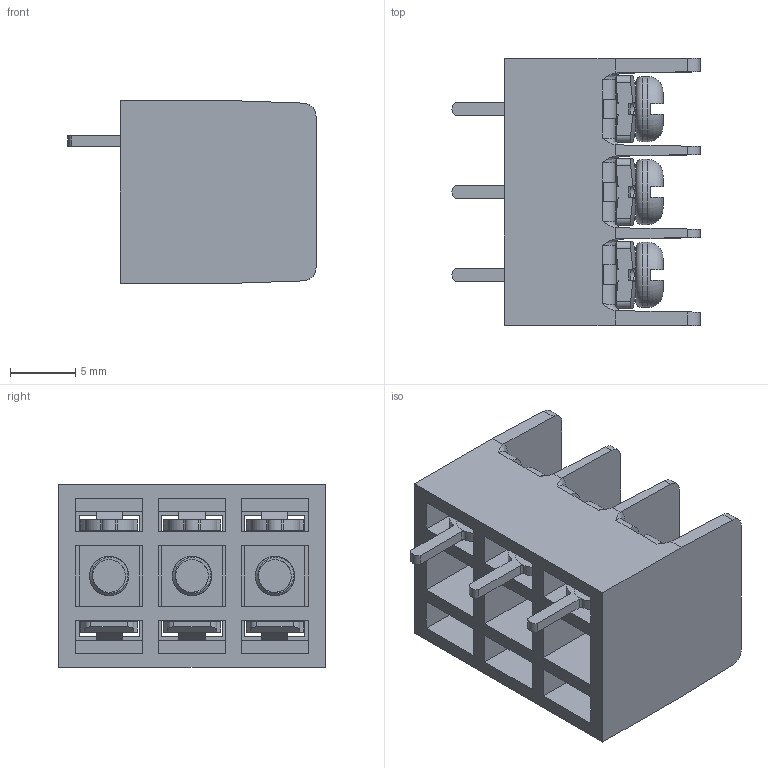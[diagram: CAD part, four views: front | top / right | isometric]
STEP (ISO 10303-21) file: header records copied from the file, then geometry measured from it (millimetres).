
FILE_DESCRIPTION((''),'2;1');
FILE_NAME('3PIN','2021-04-15T',('hanke'),(''),'CREO PARAMETRIC BY PTC INC, 2016260','CREO PARAMETRIC BY PTC INC, 2016260','');
FILE_SCHEMA(('CONFIG_CONTROL_DESIGN'));
Length unit declared in the file: millimetre
Products named in the file (1): 3PIN
Bounding box: 19 x 20.45 x 14 mm (x, y, z)
Volume: 2067.8 mm3; surface area: 4073.9 mm2
Topology: 1 solids, 2 shells, 774 faces, 2320 edges, 1529 vertices
Faces by surface type: plane 433, cylinder 185, bspline 114, torus 36, cone 6
Entity records: 39481 total; most frequent: CARTESIAN_POINT 20085, ORIENTED_EDGE 4604, DIRECTION 3214, EDGE_CURVE 2302, VERTEX_POINT 1523, VECTOR 1268, LINE 1268, AXIS2_PLACEMENT_3D 973
